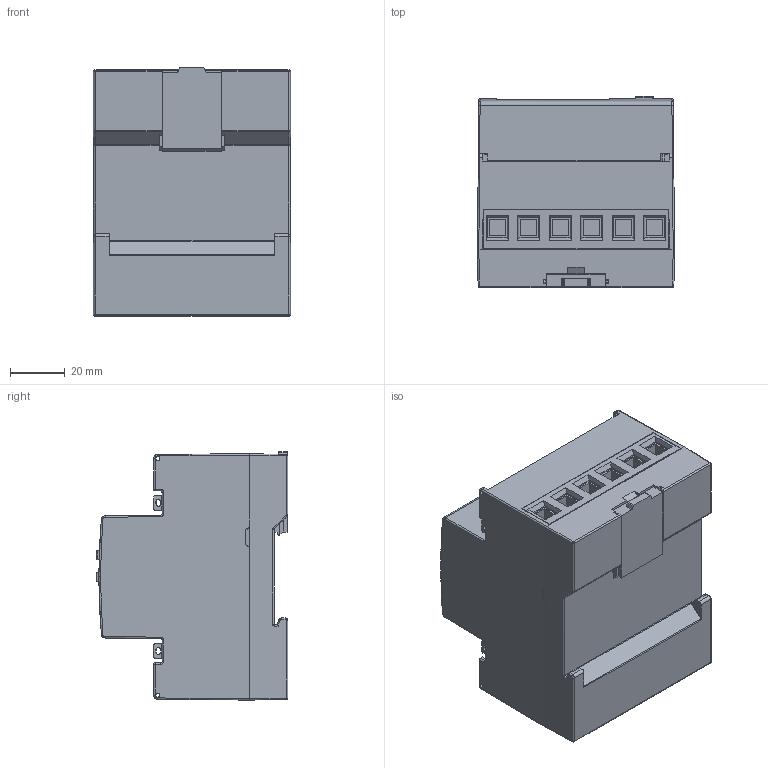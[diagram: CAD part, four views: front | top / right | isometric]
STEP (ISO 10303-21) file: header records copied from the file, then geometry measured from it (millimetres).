
FILE_DESCRIPTION (( 'STEP AP214' ), '1' );
FILE_NAME ('U2289-S0.STEP', '2018-05-24T09:26:41', ( '' ), ( '' ), 'SwSTEP 2.0', 'SolidWorks 2017', '' );
FILE_SCHEMA (( 'AUTOMOTIVE_DESIGN' ));
Length unit declared in the file: millimetre
Products named in the file (1): U2289-S0
Bounding box: 72 x 70 x 90.67 mm (x, y, z)
Volume: 350909.2 mm3; surface area: 38479.9 mm2
Topology: 1 solids, 1 shells, 811 faces, 1968 edges, 1202 vertices
Faces by surface type: plane 463, cylinder 160, bspline 94, cone 65, torus 19, sphere 10
Entity records: 33530 total; most frequent: CARTESIAN_POINT 7339, ORIENTED_EDGE 3912, DIRECTION 3429, EDGE_CURVE 1956, LINE 1301, VECTOR 1301, VERTEX_POINT 1202, AXIS2_PLACEMENT_3D 1064
